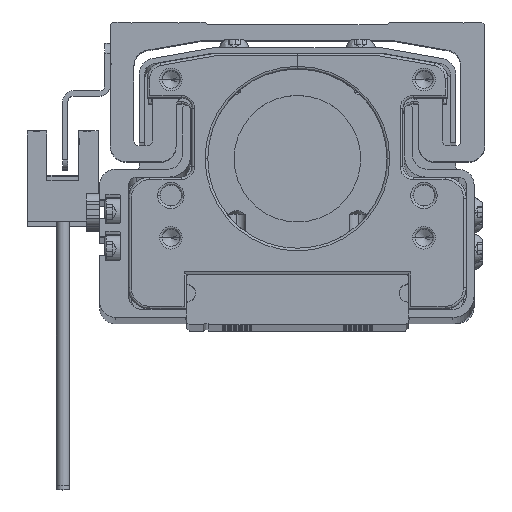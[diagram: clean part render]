
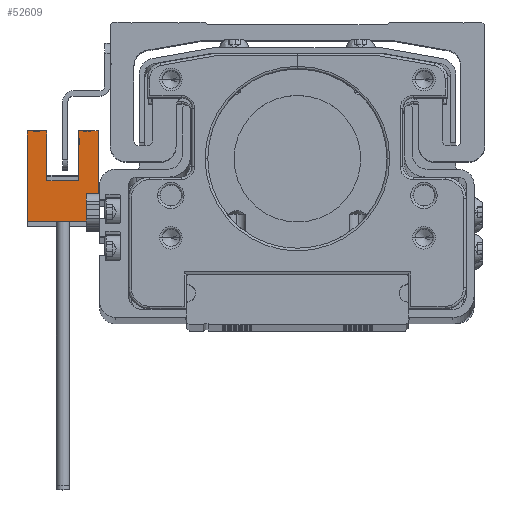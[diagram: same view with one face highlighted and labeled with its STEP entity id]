
A CAD part, top view. The second image highlights one B-rep face of the part: STEP entity #52609.
In plain terms, the highlighted planar face has unit normal (0, 0, 1) as drawn and (-1, 0, 0) by its records, which use the part's own axes.
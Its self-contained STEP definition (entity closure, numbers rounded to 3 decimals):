
#39 = ORIENTED_EDGE ( 'NONE', *, *, #49137, .T. ) ;
#1027 = LINE ( 'NONE', #31135, #24808 ) ;
#2672 = EDGE_CURVE ( 'NONE', #6435, #26786, #21872, .T. ) ;
#3489 = PLANE ( 'NONE',  #46958 ) ;
#4485 = LINE ( 'NONE', #24730, #19728 ) ;
#5985 = CARTESIAN_POINT ( 'NONE',  ( -3., 2., 0. ) ) ;
#6435 = VERTEX_POINT ( 'NONE', #10987 ) ;
#6695 = DIRECTION ( 'NONE',  ( 0., 1., 0. ) ) ;
#6950 = LINE ( 'NONE', #40030, #49683 ) ;
#7363 = DIRECTION ( 'NONE',  ( 0., -1., 0. ) ) ;
#7857 = DIRECTION ( 'NONE',  ( -1., 0., 0. ) ) ;
#8560 = CARTESIAN_POINT ( 'NONE',  ( -3., -7.4, 0. ) ) ;
#9366 = CARTESIAN_POINT ( 'NONE',  ( -3., 2., -3.7 ) ) ;
#9538 = EDGE_CURVE ( 'NONE', #26786, #40446, #19189, .T. ) ;
#9786 = ORIENTED_EDGE ( 'NONE', *, *, #38850, .T. ) ;
#10987 = CARTESIAN_POINT ( 'NONE',  ( -3., -9.9, 9.7 ) ) ;
#12910 = VERTEX_POINT ( 'NONE', #48319 ) ;
#13034 = VERTEX_POINT ( 'NONE', #44756 ) ;
#13914 = ORIENTED_EDGE ( 'NONE', *, *, #28456, .T. ) ;
#15369 = VECTOR ( 'NONE', #6695, 1000. ) ;
#15819 = EDGE_CURVE ( 'NONE', #36888, #6435, #22259, .T. ) ;
#16221 = EDGE_CURVE ( 'NONE', #40446, #28320, #4485, .T. ) ;
#16391 = LINE ( 'NONE', #39619, #37218 ) ;
#18487 = CARTESIAN_POINT ( 'NONE',  ( -3., 2., 6. ) ) ;
#19189 = LINE ( 'NONE', #50015, #32870 ) ;
#19446 = VERTEX_POINT ( 'NONE', #8560 ) ;
#19728 = VECTOR ( 'NONE', #24660, 1000. ) ;
#21643 = ORIENTED_EDGE ( 'NONE', *, *, #2672, .T. ) ;
#21872 = LINE ( 'NONE', #30564, #53057 ) ;
#22259 = LINE ( 'NONE', #33552, #44270 ) ;
#22312 = EDGE_LOOP ( 'NONE', ( #51022, #35731, #49161, #21643, #28937, #50806, #13914, #26538, #9786, #39 ) ) ;
#24412 = EDGE_CURVE ( 'NONE', #13034, #36888, #33266, .T. ) ;
#24525 = CARTESIAN_POINT ( 'NONE',  ( -3., 2., -3.7 ) ) ;
#24660 = DIRECTION ( 'NONE',  ( 0., -1., 0. ) ) ;
#24730 = CARTESIAN_POINT ( 'NONE',  ( -3., 2., 6. ) ) ;
#24808 = VECTOR ( 'NONE', #29927, 1000. ) ;
#26538 = ORIENTED_EDGE ( 'NONE', *, *, #35035, .T. ) ;
#26786 = VERTEX_POINT ( 'NONE', #45516 ) ;
#28320 = VERTEX_POINT ( 'NONE', #42634 ) ;
#28456 = EDGE_CURVE ( 'NONE', #28320, #19446, #1027, .T. ) ;
#28937 = ORIENTED_EDGE ( 'NONE', *, *, #9538, .T. ) ;
#29927 = DIRECTION ( 'NONE',  ( 0., 0., -1. ) ) ;
#30174 = DIRECTION ( 'NONE',  ( 0., 1., 0. ) ) ;
#30564 = CARTESIAN_POINT ( 'NONE',  ( -3., 2., 9.7 ) ) ;
#30992 = LINE ( 'NONE', #32606, #52475 ) ;
#31135 = CARTESIAN_POINT ( 'NONE',  ( -3., -7.4, -3.7 ) ) ;
#32606 = CARTESIAN_POINT ( 'NONE',  ( -3., 2., -3.7 ) ) ;
#32870 = VECTOR ( 'NONE', #50300, 1000. ) ;
#33266 = LINE ( 'NONE', #38718, #44183 ) ;
#33542 = DIRECTION ( 'NONE',  ( 0., 0., 1. ) ) ;
#33552 = CARTESIAN_POINT ( 'NONE',  ( -3., -9.9, -3.7 ) ) ;
#34301 = VERTEX_POINT ( 'NONE', #9366 ) ;
#34887 = CARTESIAN_POINT ( 'NONE',  ( -3., -9.9, 7.5 ) ) ;
#35035 = EDGE_CURVE ( 'NONE', #19446, #49207, #36223, .T. ) ;
#35731 = ORIENTED_EDGE ( 'NONE', *, *, #24412, .T. ) ;
#35828 = FACE_OUTER_BOUND ( 'NONE', #22312, .T. ) ;
#36223 = LINE ( 'NONE', #5985, #15369 ) ;
#36888 = VERTEX_POINT ( 'NONE', #34887 ) ;
#37085 = DIRECTION ( 'NONE',  ( 0., 0., 1. ) ) ;
#37125 = CARTESIAN_POINT ( 'NONE',  ( -3., 2., 0. ) ) ;
#37218 = VECTOR ( 'NONE', #39680, 1000. ) ;
#38718 = CARTESIAN_POINT ( 'NONE',  ( -3., -16.1, 7.5 ) ) ;
#38850 = EDGE_CURVE ( 'NONE', #49207, #34301, #16391, .T. ) ;
#39619 = CARTESIAN_POINT ( 'NONE',  ( -3., 2., -3.7 ) ) ;
#39680 = DIRECTION ( 'NONE',  ( 0., 0., -1. ) ) ;
#39982 = DIRECTION ( 'NONE',  ( 0., 0., 1. ) ) ;
#40022 = DIRECTION ( 'NONE',  ( 0., 1., 0. ) ) ;
#40030 = CARTESIAN_POINT ( 'NONE',  ( -3., -15.2, -3.7 ) ) ;
#40446 = VERTEX_POINT ( 'NONE', #18487 ) ;
#42634 = CARTESIAN_POINT ( 'NONE',  ( -3., -7.4, 6. ) ) ;
#43791 = EDGE_CURVE ( 'NONE', #12910, #13034, #6950, .T. ) ;
#44183 = VECTOR ( 'NONE', #40022, 1000. ) ;
#44270 = VECTOR ( 'NONE', #33542, 1000. ) ;
#44756 = CARTESIAN_POINT ( 'NONE',  ( -3., -15.2, 7.5 ) ) ;
#45516 = CARTESIAN_POINT ( 'NONE',  ( -3., 2., 9.7 ) ) ;
#46958 = AXIS2_PLACEMENT_3D ( 'NONE', #24525, #7857, #37085 ) ;
#48319 = CARTESIAN_POINT ( 'NONE',  ( -3., -15.2, -3.7 ) ) ;
#49137 = EDGE_CURVE ( 'NONE', #34301, #12910, #30992, .T. ) ;
#49161 = ORIENTED_EDGE ( 'NONE', *, *, #15819, .T. ) ;
#49207 = VERTEX_POINT ( 'NONE', #37125 ) ;
#49683 = VECTOR ( 'NONE', #39982, 1000. ) ;
#50015 = CARTESIAN_POINT ( 'NONE',  ( -3., 2., -3.7 ) ) ;
#50300 = DIRECTION ( 'NONE',  ( 0., 0., -1. ) ) ;
#50806 = ORIENTED_EDGE ( 'NONE', *, *, #16221, .T. ) ;
#51022 = ORIENTED_EDGE ( 'NONE', *, *, #43791, .T. ) ;
#52475 = VECTOR ( 'NONE', #7363, 1000. ) ;
#52609 = ADVANCED_FACE ( 'NONE', ( #35828 ), #3489, .T. ) ;
#53057 = VECTOR ( 'NONE', #30174, 1000. ) ;
